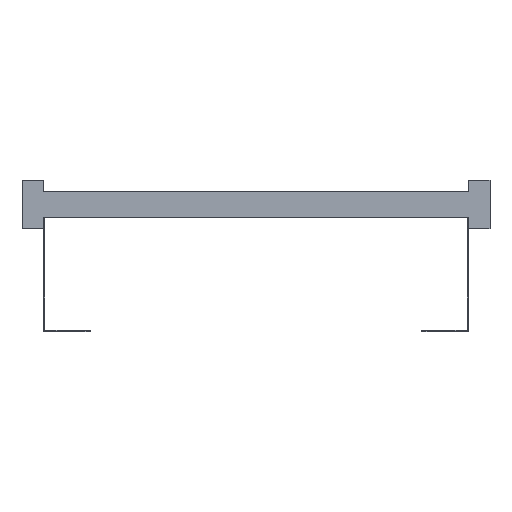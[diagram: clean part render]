
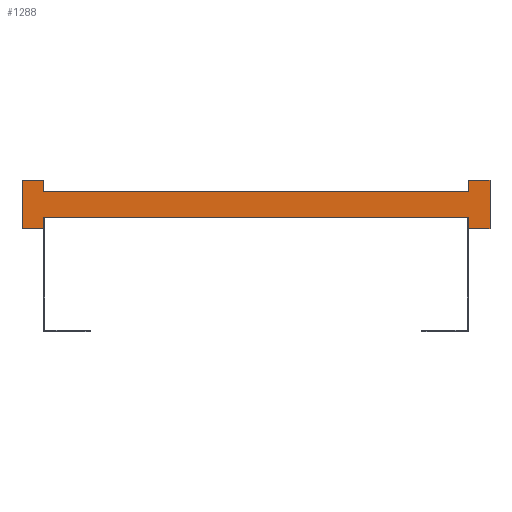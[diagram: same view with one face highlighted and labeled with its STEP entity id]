
A CAD part, front view. The second image highlights one B-rep face of the part: STEP entity #1288.
In plain terms, the highlighted planar face has unit normal (0, -1, 0).
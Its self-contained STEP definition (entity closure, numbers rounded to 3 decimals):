
#113=DIRECTION('',(0.,0.,1.));
#114=VECTOR('',#113,13.5);
#115=CARTESIAN_POINT('',(250.,0.,-28.5));
#116=LINE('',#115,#114);
#117=DIRECTION('',(0.,0.,-1.));
#118=VECTOR('',#117,13.5);
#119=CARTESIAN_POINT('',(-250.,0.,-15.));
#120=LINE('',#119,#118);
#121=DIRECTION('',(-1.,0.,0.));
#122=VECTOR('',#121,25.);
#123=CARTESIAN_POINT('',(-250.,0.,-28.5));
#124=LINE('',#123,#122);
#125=DIRECTION('',(0.,0.,1.));
#126=VECTOR('',#125,57.);
#127=CARTESIAN_POINT('',(-275.,0.,-28.5));
#128=LINE('',#127,#126);
#129=DIRECTION('',(1.,0.,0.));
#130=VECTOR('',#129,25.);
#131=CARTESIAN_POINT('',(-275.,0.,28.5));
#132=LINE('',#131,#130);
#133=DIRECTION('',(0.,0.,-1.));
#134=VECTOR('',#133,13.5);
#135=CARTESIAN_POINT('',(-250.,0.,28.5));
#136=LINE('',#135,#134);
#137=DIRECTION('',(0.,0.,1.));
#138=VECTOR('',#137,13.5);
#139=CARTESIAN_POINT('',(250.,0.,15.));
#140=LINE('',#139,#138);
#141=DIRECTION('',(1.,0.,0.));
#142=VECTOR('',#141,25.);
#143=CARTESIAN_POINT('',(250.,0.,28.5));
#144=LINE('',#143,#142);
#145=DIRECTION('',(0.,0.,-1.));
#146=VECTOR('',#145,57.);
#147=CARTESIAN_POINT('',(275.,0.,28.5));
#148=LINE('',#147,#146);
#149=DIRECTION('',(-1.,0.,0.));
#150=VECTOR('',#149,25.);
#151=CARTESIAN_POINT('',(275.,0.,-28.5));
#152=LINE('',#151,#150);
#961=DIRECTION('',(1.,0.,0.));
#962=VECTOR('',#961,500.);
#963=CARTESIAN_POINT('',(-250.,0.,-15.));
#964=LINE('',#963,#962);
#973=DIRECTION('',(1.,0.,0.));
#974=VECTOR('',#973,500.);
#975=CARTESIAN_POINT('',(-250.,0.,15.));
#976=LINE('',#975,#974);
#977=CARTESIAN_POINT('',(-275.,0.,28.5));
#978=CARTESIAN_POINT('',(-250.,0.,28.5));
#979=VERTEX_POINT('',#977);
#980=VERTEX_POINT('',#978);
#981=CARTESIAN_POINT('',(-250.,0.,-28.5));
#982=CARTESIAN_POINT('',(-275.,0.,-28.5));
#983=VERTEX_POINT('',#981);
#984=VERTEX_POINT('',#982);
#985=CARTESIAN_POINT('',(275.,0.,28.5));
#986=CARTESIAN_POINT('',(275.,0.,-28.5));
#987=VERTEX_POINT('',#985);
#988=VERTEX_POINT('',#986);
#989=CARTESIAN_POINT('',(250.,0.,-28.5));
#990=VERTEX_POINT('',#989);
#991=CARTESIAN_POINT('',(250.,0.,28.5));
#992=VERTEX_POINT('',#991);
#1009=CARTESIAN_POINT('',(-250.,0.,-15.));
#1011=VERTEX_POINT('',#1009);
#1013=CARTESIAN_POINT('',(-250.,0.,15.));
#1015=VERTEX_POINT('',#1013);
#1017=CARTESIAN_POINT('',(250.,0.,-15.));
#1019=VERTEX_POINT('',#1017);
#1021=CARTESIAN_POINT('',(250.,0.,15.));
#1023=VERTEX_POINT('',#1021);
#1257=CARTESIAN_POINT('',(0.,0.,0.));
#1258=DIRECTION('',(0.,1.,0.));
#1259=DIRECTION('',(1.,0.,0.));
#1260=AXIS2_PLACEMENT_3D('',#1257,#1258,#1259);
#1261=PLANE('',#1260);
#1263=ORIENTED_EDGE('',*,*,#1262,.T.);
#1265=ORIENTED_EDGE('',*,*,#1264,.F.);
#1267=ORIENTED_EDGE('',*,*,#1266,.T.);
#1269=ORIENTED_EDGE('',*,*,#1268,.T.);
#1271=ORIENTED_EDGE('',*,*,#1270,.T.);
#1273=ORIENTED_EDGE('',*,*,#1272,.T.);
#1275=ORIENTED_EDGE('',*,*,#1274,.T.);
#1277=ORIENTED_EDGE('',*,*,#1276,.T.);
#1279=ORIENTED_EDGE('',*,*,#1278,.T.);
#1281=ORIENTED_EDGE('',*,*,#1280,.T.);
#1283=ORIENTED_EDGE('',*,*,#1282,.T.);
#1285=ORIENTED_EDGE('',*,*,#1284,.T.);
#1286=EDGE_LOOP('',(#1263,#1265,#1267,#1269,#1271,#1273,#1275,#1277,#1279,#1281,
#1283,#1285));
#1287=FACE_OUTER_BOUND('',#1286,.F.);
#1262=EDGE_CURVE('',#990,#1019,#116,.T.);
#1264=EDGE_CURVE('',#1011,#1019,#964,.T.);
#1266=EDGE_CURVE('',#1011,#983,#120,.T.);
#1268=EDGE_CURVE('',#983,#984,#124,.T.);
#1270=EDGE_CURVE('',#984,#979,#128,.T.);
#1272=EDGE_CURVE('',#979,#980,#132,.T.);
#1274=EDGE_CURVE('',#980,#1015,#136,.T.);
#1276=EDGE_CURVE('',#1015,#1023,#976,.T.);
#1278=EDGE_CURVE('',#1023,#992,#140,.T.);
#1280=EDGE_CURVE('',#992,#987,#144,.T.);
#1282=EDGE_CURVE('',#987,#988,#148,.T.);
#1284=EDGE_CURVE('',#988,#990,#152,.T.);
#1288=ADVANCED_FACE('',(#1287),#1261,.F.);
